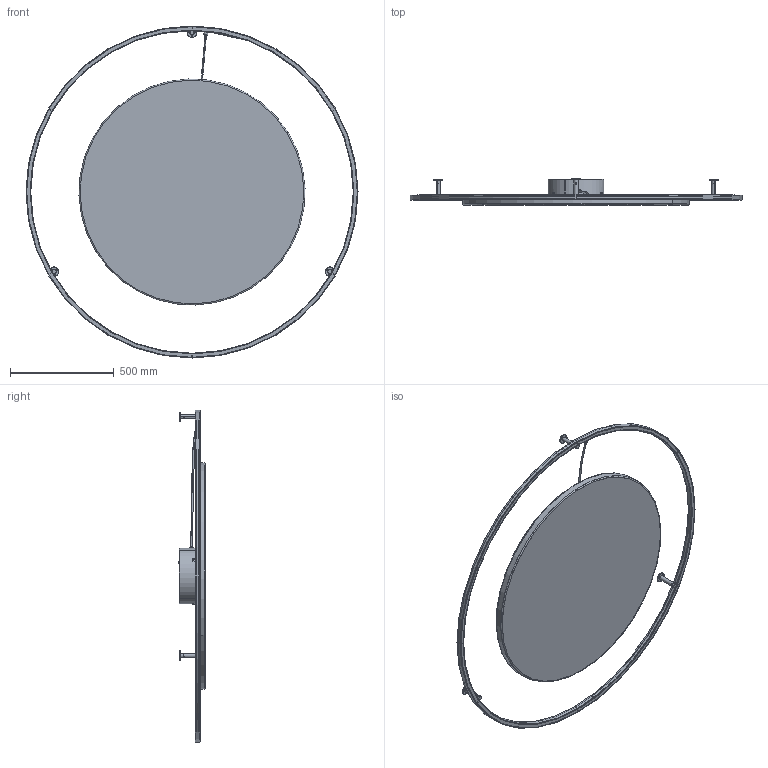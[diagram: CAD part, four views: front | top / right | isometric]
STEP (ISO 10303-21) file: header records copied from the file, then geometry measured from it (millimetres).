
FILE_DESCRIPTION (( 'STEP AP203' ), '1' );
FILE_NAME ('PLULA1-160-SOUND ABSORBING.STEP', '2023-09-25T17:18:26', ( '' ), ( '' ), 'SwSTEP 2.0', 'SolidWorks 2023', '' );
FILE_SCHEMA (( 'CONFIG_CONTROL_DESIGN' ));
Length unit declared in the file: millimetre
Products named in the file (20): socket countersunk head screw_iso_ISO 10642 - M8 x 20 --- 20N; PLULA1-160-SOUND ABSORBING; WSCP2F0004-0403-00; WSASS-000000016-32; socket countersunk head screw_iso_WSMCVII-04A20-0141; WSCM2A0028-0700-01; Pannelli Definitivi Tappezziere_PANNELLO PLULA 160-180 Ø1090mm H40-45mm; PANNELLI TAPPEZZIERE DEFINITIVI_PANULA1093540AV; piedino_poliuretano_Ø30; WSF0GNS0135NI3034; WS0T21024---------; WSCM2A0022-0733-00; TANG YAO-7727-P415 + RIV TESSILE 33- PER ANELLI; ULIGHT160_PPL; ISO7046_M4_H25; ISO7046_M4_H12; WSCM2D0020-0733-00; ACPLULA100XXXXX; WSCM2A0030-0700-01; WSA5068-03-6-0-11-
Assembly tree (33 placements, depth 4):
  PLULA1-160-SOUND ABSORBING
    ULIGHT160_PPL
      WSCM2D0020-0733-00
      WS0T21024---------  x3
      WSCM2A0022-0733-00
      WSA5068-03-6-0-11-
      WSCP2F0004-0403-00  x6
      ACPLULA100XXXXX  x3
        WSCM2A0030-0700-01
        WSCM2A0028-0700-01
        socket countersunk head screw_iso_ISO 10642 - M8 x 20 --- 20N
        socket countersunk head screw_iso_WSMCVII-04A20-0141
      WSASS-000000016-32
    Pannelli Definitivi Tappezziere_PANNELLO PLULA 160-180 Ø1090mm H40-45mm
      PANNELLI TAPPEZZIERE DEFINITIVI_PANULA1093540AV
      WSF0GNS0135NI3034  x3
      ISO7046_M4_H12
      piedino_poliuretano_Ø30  x3
      ISO7046_M4_H25  x2
    TANG YAO-7727-P415 + RIV TESSILE 33- PER ANELLI
Bounding box: 1600 x 127.5 x 1600 mm (x, y, z)
Volume: 34598545.1 mm3; surface area: 8365180.4 mm2
Topology: 62 solids, 62 shells, 3724 faces, 10057 edges, 6368 vertices
Faces by surface type: plane 1686, cylinder 1094, bspline 388, cone 350, torus 190, sphere 16
Entity records: 139251 total; most frequent: CARTESIAN_POINT 57266, ORIENTED_EDGE 18166, DIRECTION 14268, EDGE_CURVE 9083, VERTEX_POINT 5849, VECTOR 4798, LINE 4798, AXIS2_PLACEMENT_3D 4735
